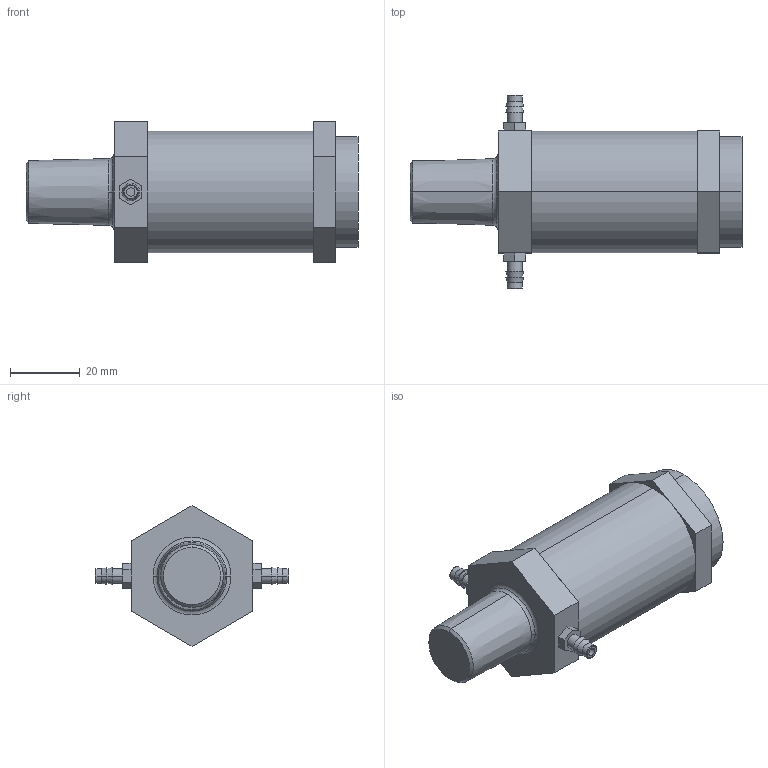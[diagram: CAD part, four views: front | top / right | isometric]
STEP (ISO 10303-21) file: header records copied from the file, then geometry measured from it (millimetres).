
FILE_DESCRIPTION((''),'2;1');
FILE_NAME('UDR3_ASM','2017-08-24T',('jennifer.elliott'),('CenterLine (Windsor) Ltd - Automation Components Division'),'PRO/ENGINEER BY PARAMETRIC TECHNOLOGY CORPORATION, 2015030','PRO/ENGINEER BY PARAMETRIC TECHNOLOGY CORPORATION, 2015030','');
FILE_SCHEMA(('AUTOMOTIVE_DESIGN { 1 0 10303 214 1 1 1 1 }'));
Length unit declared in the file: inch
Products named in the file (7): PRT0103; PRT0104; PRT0105; PRT0106; PRT0107; PRT0108; UDR3_ASM
Assembly tree (6 placements, depth 2):
  UDR3_ASM
    PRT0103
    PRT0104
    PRT0105
    PRT0106
    PRT0107
    PRT0108
Bounding box: 95.12 x 55.55 x 40.33 mm (x, y, z)
Volume: 74599.2 mm3; surface area: 17503.7 mm2
Topology: 6 solids, 6 shells, 83 faces, 177 edges, 113 vertices
Faces by surface type: plane 43, cylinder 16, torus 12, cone 12
Entity records: 2699 total; most frequent: DIRECTION 446, CARTESIAN_POINT 405, ORIENTED_EDGE 354, EDGE_CURVE 177, AXIS2_PLACEMENT_3D 173, VERTEX_POINT 113, VECTOR 100, LINE 100
